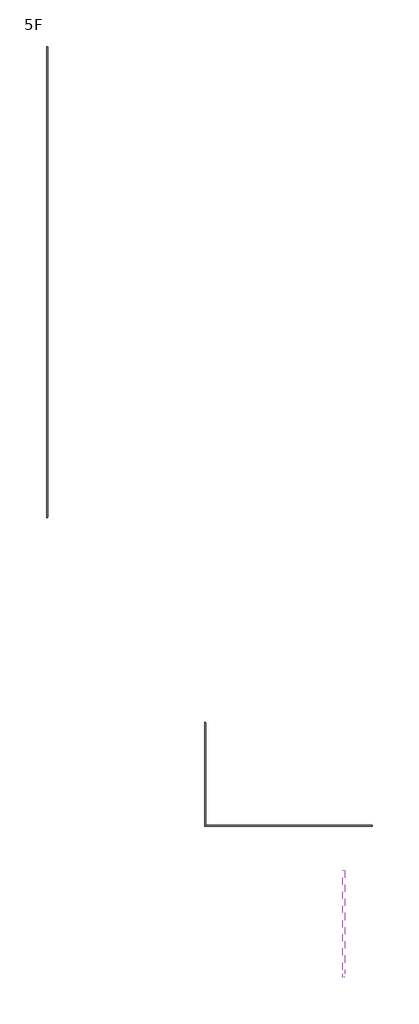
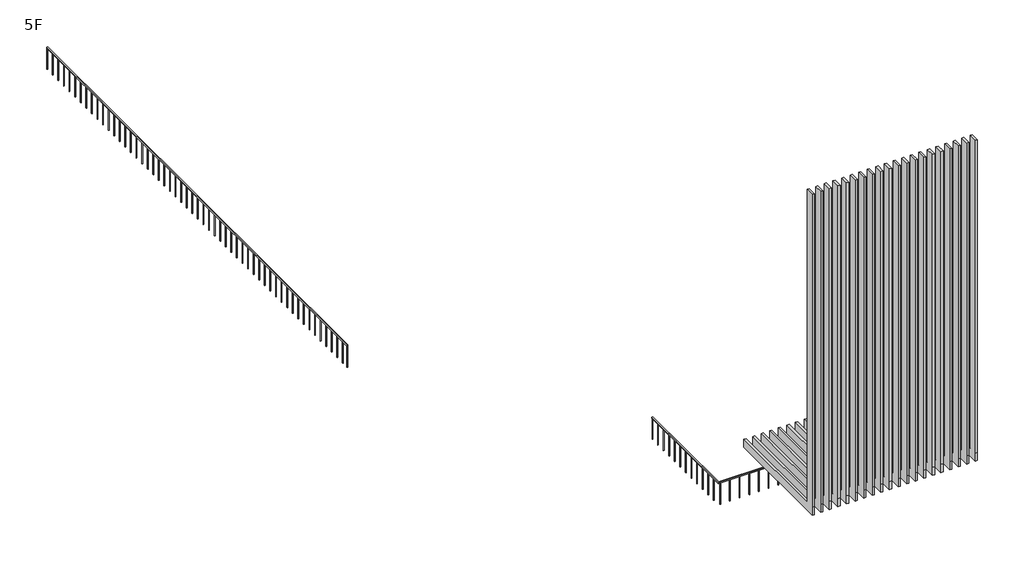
# One storey: 3 railings.
"""IFC4 building model written with IfcOpenShell, lengths in millimetres."""

from ifc_helpers import new_model, si_unit, frame, origin, place, context, project, spatial, polyline, outline, extrude, faceted_brep, transform, mapped, element, save
from components import railing_3cd46176

model = new_model("IFC4")

# Units and contexts
model_context = context("Model", 3, world=origin())
ifc_project = project(units=[si_unit("LENGTHUNIT", "METRE", prefix="MILLI")], contexts=[model_context])

# Site, building, storey
site = spatial("IfcSite", under=ifc_project)
building = spatial("IfcBuilding", under=site)
storey = spatial("IfcBuildingStorey", under=building, Name="5F", Elevation=18050.0)

# Railings
placement = place(None, origin())
railing_shape = railing_3cd46176(model_context)
element("IfcRailing", 1, ObjectType="南向隔柵75 : 南向隔柵1", at=placement, inside=storey, context=model_context, shape_type="MappedRepresentation", body=[
    mapped(railing_shape, transform((0.0, 0.0, 0.0), x_axis=(1.0, 0.0, 0.0), y_axis=(0.0, 1.0, 0.0), z_axis=(0.0, 0.0, 1.0))),
])
element("IfcRailing", 2, ObjectType="1100mm", at=placement, inside=storey, context=model_context, shape_type="SweptSolid", body=[
    extrude(outline(polyline([(-15484.1310053, 19560.0950739), (-15434.1310053, 19560.0950739), (-15434.1310053, -4629.9049261), (-15484.1310053, -4629.9049261), (-15484.1310053, 19560.0950739)])), frame((0.0, 0.0, 19100.0), z_axis=(0.0, 0.0, 1.0), x_axis=(1.0, 0.0, 0.0)), (0.0, 0.0, 1.0), 50.0),
    extrude(outline(polyline([(-15471.6310053, -4277.4049261), (-15446.6310053, -4277.4049261), (-15446.6310053, -4302.4049261), (-15471.6310053, -4302.4049261), (-15471.6310053, -4277.4049261)])), frame((0.0, 0.0, 18050.0), z_axis=(0.0, 0.0, 1.0), x_axis=(1.0, 0.0, 0.0)), (0.0, 0.0, 1.0), 1050.0),
    extrude(outline(polyline([(-15471.6310053, -3827.4049261), (-15446.6310053, -3827.4049261), (-15446.6310053, -3852.4049261), (-15471.6310053, -3852.4049261), (-15471.6310053, -3827.4049261)])), frame((0.0, 0.0, 18050.0), z_axis=(0.0, 0.0, 1.0), x_axis=(1.0, 0.0, 0.0)), (0.0, 0.0, 1.0), 1050.0),
    extrude(outline(polyline([(-15471.6310053, -3377.4049261), (-15446.6310053, -3377.4049261), (-15446.6310053, -3402.4049261), (-15471.6310053, -3402.4049261), (-15471.6310053, -3377.4049261)])), frame((0.0, 0.0, 18050.0), z_axis=(0.0, 0.0, 1.0), x_axis=(1.0, 0.0, 0.0)), (0.0, 0.0, 1.0), 1050.0),
    extrude(outline(polyline([(-15471.6310053, -2927.4049261), (-15446.6310053, -2927.4049261), (-15446.6310053, -2952.4049261), (-15471.6310053, -2952.4049261), (-15471.6310053, -2927.4049261)])), frame((0.0, 0.0, 18050.0), z_axis=(0.0, 0.0, 1.0), x_axis=(1.0, 0.0, 0.0)), (0.0, 0.0, 1.0), 1050.0),
    extrude(outline(polyline([(-15471.6310053, -2477.4049261), (-15446.6310053, -2477.4049261), (-15446.6310053, -2502.4049261), (-15471.6310053, -2502.4049261), (-15471.6310053, -2477.4049261)])), frame((0.0, 0.0, 18050.0), z_axis=(0.0, 0.0, 1.0), x_axis=(1.0, 0.0, 0.0)), (0.0, 0.0, 1.0), 1050.0),
    extrude(outline(polyline([(-15471.6310053, -2027.4049261), (-15446.6310053, -2027.4049261), (-15446.6310053, -2052.4049261), (-15471.6310053, -2052.4049261), (-15471.6310053, -2027.4049261)])), frame((0.0, 0.0, 18050.0), z_axis=(0.0, 0.0, 1.0), x_axis=(1.0, 0.0, 0.0)), (0.0, 0.0, 1.0), 1050.0),
    extrude(outline(polyline([(-15471.6310053, -1577.4049261), (-15446.6310053, -1577.4049261), (-15446.6310053, -1602.4049261), (-15471.6310053, -1602.4049261), (-15471.6310053, -1577.4049261)])), frame((0.0, 0.0, 18050.0), z_axis=(0.0, 0.0, 1.0), x_axis=(1.0, 0.0, 0.0)), (0.0, 0.0, 1.0), 1050.0),
    extrude(outline(polyline([(-15471.6310053, -1127.4049261), (-15446.6310053, -1127.4049261), (-15446.6310053, -1152.4049261), (-15471.6310053, -1152.4049261), (-15471.6310053, -1127.4049261)])), frame((0.0, 0.0, 18050.0), z_axis=(0.0, 0.0, 1.0), x_axis=(1.0, 0.0, 0.0)), (0.0, 0.0, 1.0), 1050.0),
    extrude(outline(polyline([(-15471.6310053, -677.4049261), (-15446.6310053, -677.4049261), (-15446.6310053, -702.4049261), (-15471.6310053, -702.4049261), (-15471.6310053, -677.4049261)])), frame((0.0, 0.0, 18050.0), z_axis=(0.0, 0.0, 1.0), x_axis=(1.0, 0.0, 0.0)), (0.0, 0.0, 1.0), 1050.0),
    extrude(outline(polyline([(-15471.6310053, -227.4049261), (-15446.6310053, -227.4049261), (-15446.6310053, -252.4049261), (-15471.6310053, -252.4049261), (-15471.6310053, -227.4049261)])), frame((0.0, 0.0, 18050.0), z_axis=(0.0, 0.0, 1.0), x_axis=(1.0, 0.0, 0.0)), (0.0, 0.0, 1.0), 1050.0),
    extrude(outline(polyline([(-15471.6310053, 222.5950739), (-15446.6310053, 222.5950739), (-15446.6310053, 197.5950739), (-15471.6310053, 197.5950739), (-15471.6310053, 222.5950739)])), frame((0.0, 0.0, 18050.0), z_axis=(0.0, 0.0, 1.0), x_axis=(1.0, 0.0, 0.0)), (0.0, 0.0, 1.0), 1050.0),
    extrude(outline(polyline([(-15471.6310053, 672.5950739), (-15446.6310053, 672.5950739), (-15446.6310053, 647.5950739), (-15471.6310053, 647.5950739), (-15471.6310053, 672.5950739)])), frame((0.0, 0.0, 18050.0), z_axis=(0.0, 0.0, 1.0), x_axis=(1.0, 0.0, 0.0)), (0.0, 0.0, 1.0), 1050.0),
    extrude(outline(polyline([(-15471.6310053, 1122.5950739), (-15446.6310053, 1122.5950739), (-15446.6310053, 1097.5950739), (-15471.6310053, 1097.5950739), (-15471.6310053, 1122.5950739)])), frame((0.0, 0.0, 18050.0), z_axis=(0.0, 0.0, 1.0), x_axis=(1.0, 0.0, 0.0)), (0.0, 0.0, 1.0), 1050.0),
    extrude(outline(polyline([(-15471.6310053, 1572.5950739), (-15446.6310053, 1572.5950739), (-15446.6310053, 1547.5950739), (-15471.6310053, 1547.5950739), (-15471.6310053, 1572.5950739)])), frame((0.0, 0.0, 18050.0), z_axis=(0.0, 0.0, 1.0), x_axis=(1.0, 0.0, 0.0)), (0.0, 0.0, 1.0), 1050.0),
    extrude(outline(polyline([(-15471.6310053, 2022.5950739), (-15446.6310053, 2022.5950739), (-15446.6310053, 1997.5950739), (-15471.6310053, 1997.5950739), (-15471.6310053, 2022.5950739)])), frame((0.0, 0.0, 18050.0), z_axis=(0.0, 0.0, 1.0), x_axis=(1.0, 0.0, 0.0)), (0.0, 0.0, 1.0), 1050.0),
    extrude(outline(polyline([(-15471.6310053, 2472.5950739), (-15446.6310053, 2472.5950739), (-15446.6310053, 2447.5950739), (-15471.6310053, 2447.5950739), (-15471.6310053, 2472.5950739)])), frame((0.0, 0.0, 18050.0), z_axis=(0.0, 0.0, 1.0), x_axis=(1.0, 0.0, 0.0)), (0.0, 0.0, 1.0), 1050.0),
    extrude(outline(polyline([(-15471.6310053, 2922.5950739), (-15446.6310053, 2922.5950739), (-15446.6310053, 2897.5950739), (-15471.6310053, 2897.5950739), (-15471.6310053, 2922.5950739)])), frame((0.0, 0.0, 18050.0), z_axis=(0.0, 0.0, 1.0), x_axis=(1.0, 0.0, 0.0)), (0.0, 0.0, 1.0), 1050.0),
    extrude(outline(polyline([(-15471.6310053, 3372.5950739), (-15446.6310053, 3372.5950739), (-15446.6310053, 3347.5950739), (-15471.6310053, 3347.5950739), (-15471.6310053, 3372.5950739)])), frame((0.0, 0.0, 18050.0), z_axis=(0.0, 0.0, 1.0), x_axis=(1.0, 0.0, 0.0)), (0.0, 0.0, 1.0), 1050.0),
    extrude(outline(polyline([(-15471.6310053, 3822.5950739), (-15446.6310053, 3822.5950739), (-15446.6310053, 3797.5950739), (-15471.6310053, 3797.5950739), (-15471.6310053, 3822.5950739)])), frame((0.0, 0.0, 18050.0), z_axis=(0.0, 0.0, 1.0), x_axis=(1.0, 0.0, 0.0)), (0.0, 0.0, 1.0), 1050.0),
    extrude(outline(polyline([(-15471.6310053, 4272.5950739), (-15446.6310053, 4272.5950739), (-15446.6310053, 4247.5950739), (-15471.6310053, 4247.5950739), (-15471.6310053, 4272.5950739)])), frame((0.0, 0.0, 18050.0), z_axis=(0.0, 0.0, 1.0), x_axis=(1.0, 0.0, 0.0)), (0.0, 0.0, 1.0), 1050.0),
    extrude(outline(polyline([(-15471.6310053, 4722.5950739), (-15446.6310053, 4722.5950739), (-15446.6310053, 4697.5950739), (-15471.6310053, 4697.5950739), (-15471.6310053, 4722.5950739)])), frame((0.0, 0.0, 18050.0), z_axis=(0.0, 0.0, 1.0), x_axis=(1.0, 0.0, 0.0)), (0.0, 0.0, 1.0), 1050.0),
    extrude(outline(polyline([(-15471.6310053, 5172.5950739), (-15446.6310053, 5172.5950739), (-15446.6310053, 5147.5950739), (-15471.6310053, 5147.5950739), (-15471.6310053, 5172.5950739)])), frame((0.0, 0.0, 18050.0), z_axis=(0.0, 0.0, 1.0), x_axis=(1.0, 0.0, 0.0)), (0.0, 0.0, 1.0), 1050.0),
    extrude(outline(polyline([(-15471.6310053, 5622.5950739), (-15446.6310053, 5622.5950739), (-15446.6310053, 5597.5950739), (-15471.6310053, 5597.5950739), (-15471.6310053, 5622.5950739)])), frame((0.0, 0.0, 18050.0), z_axis=(0.0, 0.0, 1.0), x_axis=(1.0, 0.0, 0.0)), (0.0, 0.0, 1.0), 1050.0),
    extrude(outline(polyline([(-15471.6310053, 6072.5950739), (-15446.6310053, 6072.5950739), (-15446.6310053, 6047.5950739), (-15471.6310053, 6047.5950739), (-15471.6310053, 6072.5950739)])), frame((0.0, 0.0, 18050.0), z_axis=(0.0, 0.0, 1.0), x_axis=(1.0, 0.0, 0.0)), (0.0, 0.0, 1.0), 1050.0),
    extrude(outline(polyline([(-15471.6310053, 6522.5950739), (-15446.6310053, 6522.5950739), (-15446.6310053, 6497.5950739), (-15471.6310053, 6497.5950739), (-15471.6310053, 6522.5950739)])), frame((0.0, 0.0, 18050.0), z_axis=(0.0, 0.0, 1.0), x_axis=(1.0, 0.0, 0.0)), (0.0, 0.0, 1.0), 1050.0),
    extrude(outline(polyline([(-15471.6310053, 6972.5950739), (-15446.6310053, 6972.5950739), (-15446.6310053, 6947.5950739), (-15471.6310053, 6947.5950739), (-15471.6310053, 6972.5950739)])), frame((0.0, 0.0, 18050.0), z_axis=(0.0, 0.0, 1.0), x_axis=(1.0, 0.0, 0.0)), (0.0, 0.0, 1.0), 1050.0),
    extrude(outline(polyline([(-15471.6310053, 7422.5950739), (-15446.6310053, 7422.5950739), (-15446.6310053, 7397.5950739), (-15471.6310053, 7397.5950739), (-15471.6310053, 7422.5950739)])), frame((0.0, 0.0, 18050.0), z_axis=(0.0, 0.0, 1.0), x_axis=(1.0, 0.0, 0.0)), (0.0, 0.0, 1.0), 1050.0),
    extrude(outline(polyline([(-15471.6310053, 7872.5950739), (-15446.6310053, 7872.5950739), (-15446.6310053, 7847.5950739), (-15471.6310053, 7847.5950739), (-15471.6310053, 7872.5950739)])), frame((0.0, 0.0, 18050.0), z_axis=(0.0, 0.0, 1.0), x_axis=(1.0, 0.0, 0.0)), (0.0, 0.0, 1.0), 1050.0),
    extrude(outline(polyline([(-15471.6310053, 8322.5950739), (-15446.6310053, 8322.5950739), (-15446.6310053, 8297.5950739), (-15471.6310053, 8297.5950739), (-15471.6310053, 8322.5950739)])), frame((0.0, 0.0, 18050.0), z_axis=(0.0, 0.0, 1.0), x_axis=(1.0, 0.0, 0.0)), (0.0, 0.0, 1.0), 1050.0),
    extrude(outline(polyline([(-15471.6310053, 8772.5950739), (-15446.6310053, 8772.5950739), (-15446.6310053, 8747.5950739), (-15471.6310053, 8747.5950739), (-15471.6310053, 8772.5950739)])), frame((0.0, 0.0, 18050.0), z_axis=(0.0, 0.0, 1.0), x_axis=(1.0, 0.0, 0.0)), (0.0, 0.0, 1.0), 1050.0),
    extrude(outline(polyline([(-15471.6310053, 9222.5950739), (-15446.6310053, 9222.5950739), (-15446.6310053, 9197.5950739), (-15471.6310053, 9197.5950739), (-15471.6310053, 9222.5950739)])), frame((0.0, 0.0, 18050.0), z_axis=(0.0, 0.0, 1.0), x_axis=(1.0, 0.0, 0.0)), (0.0, 0.0, 1.0), 1050.0),
    extrude(outline(polyline([(-15471.6310053, 9672.5950739), (-15446.6310053, 9672.5950739), (-15446.6310053, 9647.5950739), (-15471.6310053, 9647.5950739), (-15471.6310053, 9672.5950739)])), frame((0.0, 0.0, 18050.0), z_axis=(0.0, 0.0, 1.0), x_axis=(1.0, 0.0, 0.0)), (0.0, 0.0, 1.0), 1050.0),
    extrude(outline(polyline([(-15471.6310053, 10122.5950739), (-15446.6310053, 10122.5950739), (-15446.6310053, 10097.5950739), (-15471.6310053, 10097.5950739), (-15471.6310053, 10122.5950739)])), frame((0.0, 0.0, 18050.0), z_axis=(0.0, 0.0, 1.0), x_axis=(1.0, 0.0, 0.0)), (0.0, 0.0, 1.0), 1050.0),
    extrude(outline(polyline([(-15471.6310053, 10572.5950739), (-15446.6310053, 10572.5950739), (-15446.6310053, 10547.5950739), (-15471.6310053, 10547.5950739), (-15471.6310053, 10572.5950739)])), frame((0.0, 0.0, 18050.0), z_axis=(0.0, 0.0, 1.0), x_axis=(1.0, 0.0, 0.0)), (0.0, 0.0, 1.0), 1050.0),
    extrude(outline(polyline([(-15471.6310053, 11022.5950739), (-15446.6310053, 11022.5950739), (-15446.6310053, 10997.5950739), (-15471.6310053, 10997.5950739), (-15471.6310053, 11022.5950739)])), frame((0.0, 0.0, 18050.0), z_axis=(0.0, 0.0, 1.0), x_axis=(1.0, 0.0, 0.0)), (0.0, 0.0, 1.0), 1050.0),
    extrude(outline(polyline([(-15471.6310053, 11472.5950739), (-15446.6310053, 11472.5950739), (-15446.6310053, 11447.5950739), (-15471.6310053, 11447.5950739), (-15471.6310053, 11472.5950739)])), frame((0.0, 0.0, 18050.0), z_axis=(0.0, 0.0, 1.0), x_axis=(1.0, 0.0, 0.0)), (0.0, 0.0, 1.0), 1050.0),
    extrude(outline(polyline([(-15471.6310053, 11922.5950739), (-15446.6310053, 11922.5950739), (-15446.6310053, 11897.5950739), (-15471.6310053, 11897.5950739), (-15471.6310053, 11922.5950739)])), frame((0.0, 0.0, 18050.0), z_axis=(0.0, 0.0, 1.0), x_axis=(1.0, 0.0, 0.0)), (0.0, 0.0, 1.0), 1050.0),
    extrude(outline(polyline([(-15471.6310053, 12372.5950739), (-15446.6310053, 12372.5950739), (-15446.6310053, 12347.5950739), (-15471.6310053, 12347.5950739), (-15471.6310053, 12372.5950739)])), frame((0.0, 0.0, 18050.0), z_axis=(0.0, 0.0, 1.0), x_axis=(1.0, 0.0, 0.0)), (0.0, 0.0, 1.0), 1050.0),
    extrude(outline(polyline([(-15471.6310053, 12822.5950739), (-15446.6310053, 12822.5950739), (-15446.6310053, 12797.5950739), (-15471.6310053, 12797.5950739), (-15471.6310053, 12822.5950739)])), frame((0.0, 0.0, 18050.0), z_axis=(0.0, 0.0, 1.0), x_axis=(1.0, 0.0, 0.0)), (0.0, 0.0, 1.0), 1050.0),
    extrude(outline(polyline([(-15471.6310053, 13272.5950739), (-15446.6310053, 13272.5950739), (-15446.6310053, 13247.5950739), (-15471.6310053, 13247.5950739), (-15471.6310053, 13272.5950739)])), frame((0.0, 0.0, 18050.0), z_axis=(0.0, 0.0, 1.0), x_axis=(1.0, 0.0, 0.0)), (0.0, 0.0, 1.0), 1050.0),
    extrude(outline(polyline([(-15471.6310053, 13722.5950739), (-15446.6310053, 13722.5950739), (-15446.6310053, 13697.5950739), (-15471.6310053, 13697.5950739), (-15471.6310053, 13722.5950739)])), frame((0.0, 0.0, 18050.0), z_axis=(0.0, 0.0, 1.0), x_axis=(1.0, 0.0, 0.0)), (0.0, 0.0, 1.0), 1050.0),
    extrude(outline(polyline([(-15471.6310053, 14172.5950739), (-15446.6310053, 14172.5950739), (-15446.6310053, 14147.5950739), (-15471.6310053, 14147.5950739), (-15471.6310053, 14172.5950739)])), frame((0.0, 0.0, 18050.0), z_axis=(0.0, 0.0, 1.0), x_axis=(1.0, 0.0, 0.0)), (0.0, 0.0, 1.0), 1050.0),
    extrude(outline(polyline([(-15471.6310053, 14622.5950739), (-15446.6310053, 14622.5950739), (-15446.6310053, 14597.5950739), (-15471.6310053, 14597.5950739), (-15471.6310053, 14622.5950739)])), frame((0.0, 0.0, 18050.0), z_axis=(0.0, 0.0, 1.0), x_axis=(1.0, 0.0, 0.0)), (0.0, 0.0, 1.0), 1050.0),
    extrude(outline(polyline([(-15471.6310053, 15072.5950739), (-15446.6310053, 15072.5950739), (-15446.6310053, 15047.5950739), (-15471.6310053, 15047.5950739), (-15471.6310053, 15072.5950739)])), frame((0.0, 0.0, 18050.0), z_axis=(0.0, 0.0, 1.0), x_axis=(1.0, 0.0, 0.0)), (0.0, 0.0, 1.0), 1050.0),
    extrude(outline(polyline([(-15471.6310053, 15522.5950739), (-15446.6310053, 15522.5950739), (-15446.6310053, 15497.5950739), (-15471.6310053, 15497.5950739), (-15471.6310053, 15522.5950739)])), frame((0.0, 0.0, 18050.0), z_axis=(0.0, 0.0, 1.0), x_axis=(1.0, 0.0, 0.0)), (0.0, 0.0, 1.0), 1050.0),
    extrude(outline(polyline([(-15471.6310053, 15972.5950739), (-15446.6310053, 15972.5950739), (-15446.6310053, 15947.5950739), (-15471.6310053, 15947.5950739), (-15471.6310053, 15972.5950739)])), frame((0.0, 0.0, 18050.0), z_axis=(0.0, 0.0, 1.0), x_axis=(1.0, 0.0, 0.0)), (0.0, 0.0, 1.0), 1050.0),
    extrude(outline(polyline([(-15471.6310053, 16422.5950739), (-15446.6310053, 16422.5950739), (-15446.6310053, 16397.5950739), (-15471.6310053, 16397.5950739), (-15471.6310053, 16422.5950739)])), frame((0.0, 0.0, 18050.0), z_axis=(0.0, 0.0, 1.0), x_axis=(1.0, 0.0, 0.0)), (0.0, 0.0, 1.0), 1050.0),
    extrude(outline(polyline([(-15471.6310053, 16872.5950739), (-15446.6310053, 16872.5950739), (-15446.6310053, 16847.5950739), (-15471.6310053, 16847.5950739), (-15471.6310053, 16872.5950739)])), frame((0.0, 0.0, 18050.0), z_axis=(0.0, 0.0, 1.0), x_axis=(1.0, 0.0, 0.0)), (0.0, 0.0, 1.0), 1050.0),
    extrude(outline(polyline([(-15471.6310053, 17322.5950739), (-15446.6310053, 17322.5950739), (-15446.6310053, 17297.5950739), (-15471.6310053, 17297.5950739), (-15471.6310053, 17322.5950739)])), frame((0.0, 0.0, 18050.0), z_axis=(0.0, 0.0, 1.0), x_axis=(1.0, 0.0, 0.0)), (0.0, 0.0, 1.0), 1050.0),
    extrude(outline(polyline([(-15471.6310053, 17772.5950739), (-15446.6310053, 17772.5950739), (-15446.6310053, 17747.5950739), (-15471.6310053, 17747.5950739), (-15471.6310053, 17772.5950739)])), frame((0.0, 0.0, 18050.0), z_axis=(0.0, 0.0, 1.0), x_axis=(1.0, 0.0, 0.0)), (0.0, 0.0, 1.0), 1050.0),
    extrude(outline(polyline([(-15471.6310053, 18222.5950739), (-15446.6310053, 18222.5950739), (-15446.6310053, 18197.5950739), (-15471.6310053, 18197.5950739), (-15471.6310053, 18222.5950739)])), frame((0.0, 0.0, 18050.0), z_axis=(0.0, 0.0, 1.0), x_axis=(1.0, 0.0, 0.0)), (0.0, 0.0, 1.0), 1050.0),
    extrude(outline(polyline([(-15471.6310053, 18672.5950739), (-15446.6310053, 18672.5950739), (-15446.6310053, 18647.5950739), (-15471.6310053, 18647.5950739), (-15471.6310053, 18672.5950739)])), frame((0.0, 0.0, 18050.0), z_axis=(0.0, 0.0, 1.0), x_axis=(1.0, 0.0, 0.0)), (0.0, 0.0, 1.0), 1050.0),
    extrude(outline(polyline([(-15471.6310053, 19122.5950739), (-15446.6310053, 19122.5950739), (-15446.6310053, 19097.5950739), (-15471.6310053, 19097.5950739), (-15471.6310053, 19122.5950739)])), frame((0.0, 0.0, 18050.0), z_axis=(0.0, 0.0, 1.0), x_axis=(1.0, 0.0, 0.0)), (0.0, 0.0, 1.0), 1050.0),
    extrude(outline(polyline([(-15471.6310053, -4617.4049261), (-15446.6310053, -4617.4049261), (-15446.6310053, -4642.4049261), (-15471.6310053, -4642.4049261), (-15471.6310053, -4617.4049261)])), frame((0.0, 0.0, 18050.0), z_axis=(0.0, 0.0, 1.0), x_axis=(1.0, 0.0, 0.0)), (0.0, 0.0, 1.0), 1050.0),
    extrude(outline(polyline([(-15471.6310053, 19572.5950739), (-15446.6310053, 19572.5950739), (-15446.6310053, 19547.5950739), (-15471.6310053, 19547.5950739), (-15471.6310053, 19572.5950739)])), frame((0.0, 0.0, 18050.0), z_axis=(0.0, 0.0, 1.0), x_axis=(1.0, 0.0, 0.0)), (0.0, 0.0, 1.0), 1050.0),
])
element("IfcRailing", 3, ObjectType="1100mm", at=placement, inside=storey, context=model_context, shape_type="SolidModel", body=[
    faceted_brep([(-7304.1310053, -15174.9549261, 19150.0), (-7304.1310053, -15174.9549261, 19100.0), (-7354.1310053, -15174.9549261, 19100.0), (-7354.1310053, -15174.9549261, 19150.0), (-7304.1310053, -20464.9549261, 19150.0), (-7304.1310053, -20464.9549261, 19100.0), (-7354.1310053, -20514.9549261, 19100.0), (-7354.1310053, -20514.9549261, 19150.0), (1250.8689947, -20464.9549261, 19150.0), (1250.8689947, -20514.9549261, 19150.0), (1250.8689947, -20514.9549261, 19100.0), (1250.8689947, -20464.9549261, 19100.0)], [[[0, 1, 2, 3]], [[1, 0, 4, 5]], [[2, 1, 5, 6]], [[3, 2, 6, 7]], [[0, 3, 7, 4]], [[8, 9, 10, 11]], [[5, 4, 8, 11]], [[6, 5, 11, 10]], [[7, 6, 10, 9]], [[4, 7, 9, 8]]]),
    extrude(outline(polyline([(843.3689947, -20502.4549261), (843.3689947, -20477.4549261), (868.3689947, -20477.4549261), (868.3689947, -20502.4549261), (843.3689947, -20502.4549261)])), frame((0.0, 0.0, 18050.0), z_axis=(0.0, 0.0, 1.0), x_axis=(1.0, 0.0, 0.0)), (0.0, 0.0, 1.0), 1050.0),
    extrude(outline(polyline([(393.3689947, -20502.4549261), (393.3689947, -20477.4549261), (418.3689947, -20477.4549261), (418.3689947, -20502.4549261), (393.3689947, -20502.4549261)])), frame((0.0, 0.0, 18050.0), z_axis=(0.0, 0.0, 1.0), x_axis=(1.0, 0.0, 0.0)), (0.0, 0.0, 1.0), 1050.0),
    extrude(outline(polyline([(-56.6310053, -20502.4549261), (-56.6310053, -20477.4549261), (-31.6310053, -20477.4549261), (-31.6310053, -20502.4549261), (-56.6310053, -20502.4549261)])), frame((0.0, 0.0, 18050.0), z_axis=(0.0, 0.0, 1.0), x_axis=(1.0, 0.0, 0.0)), (0.0, 0.0, 1.0), 1050.0),
    extrude(outline(polyline([(-506.6310053, -20502.4549261), (-506.6310053, -20477.4549261), (-481.6310053, -20477.4549261), (-481.6310053, -20502.4549261), (-506.6310053, -20502.4549261)])), frame((0.0, 0.0, 18050.0), z_axis=(0.0, 0.0, 1.0), x_axis=(1.0, 0.0, 0.0)), (0.0, 0.0, 1.0), 1050.0),
    extrude(outline(polyline([(-956.6310053, -20502.4549261), (-956.6310053, -20477.4549261), (-931.6310053, -20477.4549261), (-931.6310053, -20502.4549261), (-956.6310053, -20502.4549261)])), frame((0.0, 0.0, 18050.0), z_axis=(0.0, 0.0, 1.0), x_axis=(1.0, 0.0, 0.0)), (0.0, 0.0, 1.0), 1050.0),
    extrude(outline(polyline([(-1406.6310053, -20502.4549261), (-1406.6310053, -20477.4549261), (-1381.6310053, -20477.4549261), (-1381.6310053, -20502.4549261), (-1406.6310053, -20502.4549261)])), frame((0.0, 0.0, 18050.0), z_axis=(0.0, 0.0, 1.0), x_axis=(1.0, 0.0, 0.0)), (0.0, 0.0, 1.0), 1050.0),
    extrude(outline(polyline([(-1856.6310053, -20502.4549261), (-1856.6310053, -20477.4549261), (-1831.6310053, -20477.4549261), (-1831.6310053, -20502.4549261), (-1856.6310053, -20502.4549261)])), frame((0.0, 0.0, 18050.0), z_axis=(0.0, 0.0, 1.0), x_axis=(1.0, 0.0, 0.0)), (0.0, 0.0, 1.0), 1050.0),
    extrude(outline(polyline([(-2306.6310053, -20502.4549261), (-2306.6310053, -20477.4549261), (-2281.6310053, -20477.4549261), (-2281.6310053, -20502.4549261), (-2306.6310053, -20502.4549261)])), frame((0.0, 0.0, 18050.0), z_axis=(0.0, 0.0, 1.0), x_axis=(1.0, 0.0, 0.0)), (0.0, 0.0, 1.0), 1050.0),
    extrude(outline(polyline([(-2756.6310053, -20502.4549261), (-2756.6310053, -20477.4549261), (-2731.6310053, -20477.4549261), (-2731.6310053, -20502.4549261), (-2756.6310053, -20502.4549261)])), frame((0.0, 0.0, 18050.0), z_axis=(0.0, 0.0, 1.0), x_axis=(1.0, 0.0, 0.0)), (0.0, 0.0, 1.0), 1050.0),
    extrude(outline(polyline([(-3206.6310053, -20502.4549261), (-3206.6310053, -20477.4549261), (-3181.6310053, -20477.4549261), (-3181.6310053, -20502.4549261), (-3206.6310053, -20502.4549261)])), frame((0.0, 0.0, 18050.0), z_axis=(0.0, 0.0, 1.0), x_axis=(1.0, 0.0, 0.0)), (0.0, 0.0, 1.0), 1050.0),
    extrude(outline(polyline([(-3656.6310053, -20502.4549261), (-3656.6310053, -20477.4549261), (-3631.6310053, -20477.4549261), (-3631.6310053, -20502.4549261), (-3656.6310053, -20502.4549261)])), frame((0.0, 0.0, 18050.0), z_axis=(0.0, 0.0, 1.0), x_axis=(1.0, 0.0, 0.0)), (0.0, 0.0, 1.0), 1050.0),
    extrude(outline(polyline([(-4106.6310053, -20502.4549261), (-4106.6310053, -20477.4549261), (-4081.6310053, -20477.4549261), (-4081.6310053, -20502.4549261), (-4106.6310053, -20502.4549261)])), frame((0.0, 0.0, 18050.0), z_axis=(0.0, 0.0, 1.0), x_axis=(1.0, 0.0, 0.0)), (0.0, 0.0, 1.0), 1050.0),
    extrude(outline(polyline([(-4556.6310053, -20502.4549261), (-4556.6310053, -20477.4549261), (-4531.6310053, -20477.4549261), (-4531.6310053, -20502.4549261), (-4556.6310053, -20502.4549261)])), frame((0.0, 0.0, 18050.0), z_axis=(0.0, 0.0, 1.0), x_axis=(1.0, 0.0, 0.0)), (0.0, 0.0, 1.0), 1050.0),
    extrude(outline(polyline([(-5006.6310053, -20502.4549261), (-5006.6310053, -20477.4549261), (-4981.6310053, -20477.4549261), (-4981.6310053, -20502.4549261), (-5006.6310053, -20502.4549261)])), frame((0.0, 0.0, 18050.0), z_axis=(0.0, 0.0, 1.0), x_axis=(1.0, 0.0, 0.0)), (0.0, 0.0, 1.0), 1050.0),
    extrude(outline(polyline([(-5456.6310053, -20502.4549261), (-5456.6310053, -20477.4549261), (-5431.6310053, -20477.4549261), (-5431.6310053, -20502.4549261), (-5456.6310053, -20502.4549261)])), frame((0.0, 0.0, 18050.0), z_axis=(0.0, 0.0, 1.0), x_axis=(1.0, 0.0, 0.0)), (0.0, 0.0, 1.0), 1050.0),
    extrude(outline(polyline([(-5906.6310053, -20502.4549261), (-5906.6310053, -20477.4549261), (-5881.6310053, -20477.4549261), (-5881.6310053, -20502.4549261), (-5906.6310053, -20502.4549261)])), frame((0.0, 0.0, 18050.0), z_axis=(0.0, 0.0, 1.0), x_axis=(1.0, 0.0, 0.0)), (0.0, 0.0, 1.0), 1050.0),
    extrude(outline(polyline([(-6356.6310053, -20502.4549261), (-6356.6310053, -20477.4549261), (-6331.6310053, -20477.4549261), (-6331.6310053, -20502.4549261), (-6356.6310053, -20502.4549261)])), frame((0.0, 0.0, 18050.0), z_axis=(0.0, 0.0, 1.0), x_axis=(1.0, 0.0, 0.0)), (0.0, 0.0, 1.0), 1050.0),
    extrude(outline(polyline([(-6806.6310053, -20502.4549261), (-6806.6310053, -20477.4549261), (-6781.6310053, -20477.4549261), (-6781.6310053, -20502.4549261), (-6806.6310053, -20502.4549261)])), frame((0.0, 0.0, 18050.0), z_axis=(0.0, 0.0, 1.0), x_axis=(1.0, 0.0, 0.0)), (0.0, 0.0, 1.0), 1050.0),
    extrude(outline(polyline([(-7256.6310053, -20502.4549261), (-7256.6310053, -20477.4549261), (-7231.6310053, -20477.4549261), (-7231.6310053, -20502.4549261), (-7256.6310053, -20502.4549261)])), frame((0.0, 0.0, 18050.0), z_axis=(0.0, 0.0, 1.0), x_axis=(1.0, 0.0, 0.0)), (0.0, 0.0, 1.0), 1050.0),
    extrude(outline(polyline([(-7341.6310053, -20112.4549261), (-7316.6310053, -20112.4549261), (-7316.6310053, -20137.4549261), (-7341.6310053, -20137.4549261), (-7341.6310053, -20112.4549261)])), frame((0.0, 0.0, 18050.0), z_axis=(0.0, 0.0, 1.0), x_axis=(1.0, 0.0, 0.0)), (0.0, 0.0, 1.0), 1050.0),
    extrude(outline(polyline([(-7341.6310053, -19662.4549261), (-7316.6310053, -19662.4549261), (-7316.6310053, -19687.4549261), (-7341.6310053, -19687.4549261), (-7341.6310053, -19662.4549261)])), frame((0.0, 0.0, 18050.0), z_axis=(0.0, 0.0, 1.0), x_axis=(1.0, 0.0, 0.0)), (0.0, 0.0, 1.0), 1050.0),
    extrude(outline(polyline([(-7341.6310053, -19212.4549261), (-7316.6310053, -19212.4549261), (-7316.6310053, -19237.4549261), (-7341.6310053, -19237.4549261), (-7341.6310053, -19212.4549261)])), frame((0.0, 0.0, 18050.0), z_axis=(0.0, 0.0, 1.0), x_axis=(1.0, 0.0, 0.0)), (0.0, 0.0, 1.0), 1050.0),
    extrude(outline(polyline([(-7341.6310053, -18762.4549261), (-7316.6310053, -18762.4549261), (-7316.6310053, -18787.4549261), (-7341.6310053, -18787.4549261), (-7341.6310053, -18762.4549261)])), frame((0.0, 0.0, 18050.0), z_axis=(0.0, 0.0, 1.0), x_axis=(1.0, 0.0, 0.0)), (0.0, 0.0, 1.0), 1050.0),
    extrude(outline(polyline([(-7341.6310053, -18312.4549261), (-7316.6310053, -18312.4549261), (-7316.6310053, -18337.4549261), (-7341.6310053, -18337.4549261), (-7341.6310053, -18312.4549261)])), frame((0.0, 0.0, 18050.0), z_axis=(0.0, 0.0, 1.0), x_axis=(1.0, 0.0, 0.0)), (0.0, 0.0, 1.0), 1050.0),
    extrude(outline(polyline([(-7341.6310053, -17862.4549261), (-7316.6310053, -17862.4549261), (-7316.6310053, -17887.4549261), (-7341.6310053, -17887.4549261), (-7341.6310053, -17862.4549261)])), frame((0.0, 0.0, 18050.0), z_axis=(0.0, 0.0, 1.0), x_axis=(1.0, 0.0, 0.0)), (0.0, 0.0, 1.0), 1050.0),
    extrude(outline(polyline([(-7341.6310053, -17412.4549261), (-7316.6310053, -17412.4549261), (-7316.6310053, -17437.4549261), (-7341.6310053, -17437.4549261), (-7341.6310053, -17412.4549261)])), frame((0.0, 0.0, 18050.0), z_axis=(0.0, 0.0, 1.0), x_axis=(1.0, 0.0, 0.0)), (0.0, 0.0, 1.0), 1050.0),
    extrude(outline(polyline([(-7341.6310053, -16962.4549261), (-7316.6310053, -16962.4549261), (-7316.6310053, -16987.4549261), (-7341.6310053, -16987.4549261), (-7341.6310053, -16962.4549261)])), frame((0.0, 0.0, 18050.0), z_axis=(0.0, 0.0, 1.0), x_axis=(1.0, 0.0, 0.0)), (0.0, 0.0, 1.0), 1050.0),
    extrude(outline(polyline([(-7341.6310053, -16512.4549261), (-7316.6310053, -16512.4549261), (-7316.6310053, -16537.4549261), (-7341.6310053, -16537.4549261), (-7341.6310053, -16512.4549261)])), frame((0.0, 0.0, 18050.0), z_axis=(0.0, 0.0, 1.0), x_axis=(1.0, 0.0, 0.0)), (0.0, 0.0, 1.0), 1050.0),
    extrude(outline(polyline([(-7341.6310053, -16062.4549261), (-7316.6310053, -16062.4549261), (-7316.6310053, -16087.4549261), (-7341.6310053, -16087.4549261), (-7341.6310053, -16062.4549261)])), frame((0.0, 0.0, 18050.0), z_axis=(0.0, 0.0, 1.0), x_axis=(1.0, 0.0, 0.0)), (0.0, 0.0, 1.0), 1050.0),
    extrude(outline(polyline([(-7341.6310053, -15612.4549261), (-7316.6310053, -15612.4549261), (-7316.6310053, -15637.4549261), (-7341.6310053, -15637.4549261), (-7341.6310053, -15612.4549261)])), frame((0.0, 0.0, 18050.0), z_axis=(0.0, 0.0, 1.0), x_axis=(1.0, 0.0, 0.0)), (0.0, 0.0, 1.0), 1050.0),
    extrude(outline(polyline([(1238.3689947, -20502.4549261), (1238.3689947, -20477.4549261), (1263.3689947, -20477.4549261), (1263.3689947, -20502.4549261), (1238.3689947, -20502.4549261)])), frame((0.0, 0.0, 18050.0), z_axis=(0.0, 0.0, 1.0), x_axis=(1.0, 0.0, 0.0)), (0.0, 0.0, 1.0), 1050.0),
    extrude(outline(polyline([(-7341.6310053, -15162.4549261), (-7316.6310053, -15162.4549261), (-7316.6310053, -15187.4549261), (-7341.6310053, -15187.4549261), (-7341.6310053, -15162.4549261)])), frame((0.0, 0.0, 18050.0), z_axis=(0.0, 0.0, 1.0), x_axis=(1.0, 0.0, 0.0)), (0.0, 0.0, 1.0), 1050.0),
])

save(model, "model.ifc")
